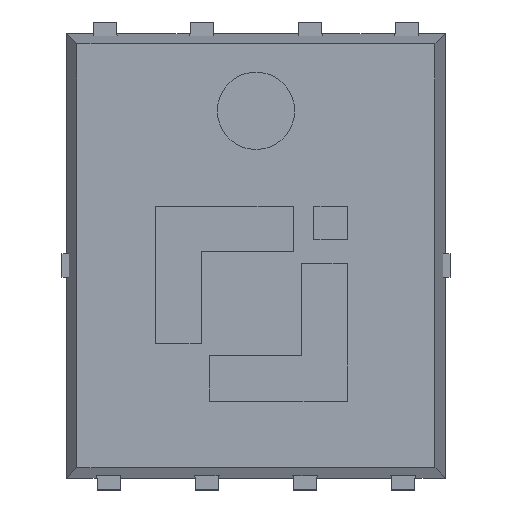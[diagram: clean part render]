
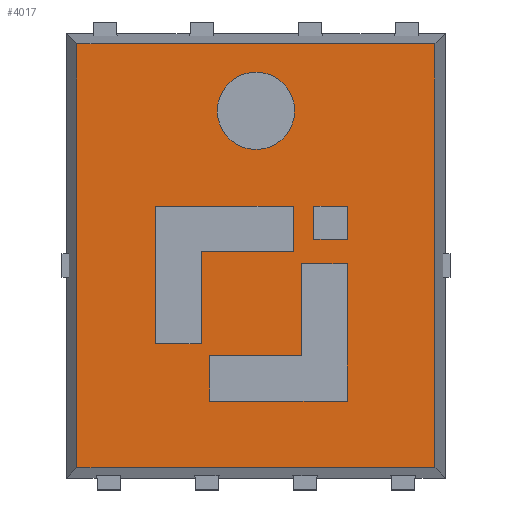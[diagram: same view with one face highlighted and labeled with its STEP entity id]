
A CAD part, top view. The second image highlights one B-rep face of the part: STEP entity #4017.
In plain terms, the highlighted planar face has unit normal (0, 0, 1).
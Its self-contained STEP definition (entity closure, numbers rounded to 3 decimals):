
#3833=CARTESIAN_POINT('',(0.,0.,0.95));
#3834=DIRECTION('',(0.,0.,1.));
#3835=DIRECTION('',(1.,0.,0.));
#3836=AXIS2_PLACEMENT_3D('',#3833,#3834,#3835);
#3837=PLANE('',#3836);
#3838=CARTESIAN_POINT('',(0.75,0.214,0.95));
#3839=VERTEX_POINT('',#3838);
#3840=CARTESIAN_POINT('',(1.18,0.214,0.95));
#3841=VERTEX_POINT('',#3840);
#3842=CARTESIAN_POINT('',(0.75,0.214,0.95));
#3843=DIRECTION('',(1.,0.,-0.));
#3844=VECTOR('',#3843,0.43);
#3845=LINE('',#3842,#3844);
#3846=EDGE_CURVE('',#3839,#3841,#3845,.T.);
#3847=ORIENTED_EDGE('',*,*,#3846,.F.);
#3848=CARTESIAN_POINT('',(0.75,0.644,0.95));
#3849=VERTEX_POINT('',#3848);
#3850=CARTESIAN_POINT('',(0.75,0.644,0.95));
#3851=DIRECTION('',(0.,-1.,0.));
#3852=VECTOR('',#3851,0.43);
#3853=LINE('',#3850,#3852);
#3854=EDGE_CURVE('',#3849,#3839,#3853,.T.);
#3855=ORIENTED_EDGE('',*,*,#3854,.F.);
#3856=CARTESIAN_POINT('',(1.18,0.644,0.95));
#3857=VERTEX_POINT('',#3856);
#3858=CARTESIAN_POINT('',(1.18,0.644,0.95));
#3859=DIRECTION('',(-1.,0.,0.));
#3860=VECTOR('',#3859,0.43);
#3861=LINE('',#3858,#3860);
#3862=EDGE_CURVE('',#3857,#3849,#3861,.T.);
#3863=ORIENTED_EDGE('',*,*,#3862,.F.);
#3864=CARTESIAN_POINT('',(1.18,0.214,0.95));
#3865=DIRECTION('',(0.,1.,0.));
#3866=VECTOR('',#3865,0.43);
#3867=LINE('',#3864,#3866);
#3868=EDGE_CURVE('',#3841,#3857,#3867,.T.);
#3869=ORIENTED_EDGE('',*,*,#3868,.F.);
#3870=EDGE_LOOP('',(#3847,#3855,#3863,#3869));
#3871=FACE_BOUND('',#3870,.T.);
#3872=CARTESIAN_POINT('',(0.5,1.875,0.95));
#3873=VERTEX_POINT('',#3872);
#3874=CARTESIAN_POINT('',(0.,1.875,0.95));
#3875=DIRECTION('',(0.,0.,1.));
#3876=DIRECTION('',(1.,0.,-0.));
#3877=AXIS2_PLACEMENT_3D('',#3874,#3875,#3876);
#3878=CIRCLE('',#3877,0.5);
#3879=EDGE_CURVE('',#3873,#3873,#3878,.T.);
#3880=ORIENTED_EDGE('',*,*,#3879,.F.);
#3881=EDGE_LOOP('',(#3880));
#3882=FACE_BOUND('',#3881,.T.);
#3883=CARTESIAN_POINT('',(2.315,-2.74,0.95));
#3884=VERTEX_POINT('',#3883);
#3885=CARTESIAN_POINT('',(2.315,2.74,0.95));
#3886=VERTEX_POINT('',#3885);
#3887=CARTESIAN_POINT('',(2.315,-2.74,0.95));
#3888=DIRECTION('',(0.,1.,0.));
#3889=VECTOR('',#3888,5.48);
#3890=LINE('',#3887,#3889);
#3891=EDGE_CURVE('',#3884,#3886,#3890,.T.);
#3892=ORIENTED_EDGE('',*,*,#3891,.T.);
#3893=CARTESIAN_POINT('',(-2.315,2.74,0.95));
#3894=VERTEX_POINT('',#3893);
#3895=CARTESIAN_POINT('',(2.315,2.74,0.95));
#3896=DIRECTION('',(-1.,-0.,0.));
#3897=VECTOR('',#3896,4.63);
#3898=LINE('',#3895,#3897);
#3899=EDGE_CURVE('',#3886,#3894,#3898,.T.);
#3900=ORIENTED_EDGE('',*,*,#3899,.T.);
#3901=CARTESIAN_POINT('',(-2.315,-2.74,0.95));
#3902=VERTEX_POINT('',#3901);
#3903=CARTESIAN_POINT('',(-2.315,2.74,0.95));
#3904=DIRECTION('',(0.,-1.,0.));
#3905=VECTOR('',#3904,5.48);
#3906=LINE('',#3903,#3905);
#3907=EDGE_CURVE('',#3894,#3902,#3906,.T.);
#3908=ORIENTED_EDGE('',*,*,#3907,.T.);
#3909=CARTESIAN_POINT('',(-2.315,-2.74,0.95));
#3910=DIRECTION('',(1.,0.,0.));
#3911=VECTOR('',#3910,4.63);
#3912=LINE('',#3909,#3911);
#3913=EDGE_CURVE('',#3902,#3884,#3912,.T.);
#3914=ORIENTED_EDGE('',*,*,#3913,.T.);
#3915=EDGE_LOOP('',(#3892,#3900,#3908,#3914));
#3916=FACE_BOUND('',#3915,.T.);
#3917=CARTESIAN_POINT('',(-1.299,0.644,0.95));
#3918=VERTEX_POINT('',#3917);
#3919=CARTESIAN_POINT('',(0.481,0.644,0.95));
#3920=VERTEX_POINT('',#3919);
#3921=CARTESIAN_POINT('',(-1.299,0.644,0.95));
#3922=DIRECTION('',(1.,0.,-0.));
#3923=VECTOR('',#3922,1.78);
#3924=LINE('',#3921,#3923);
#3925=EDGE_CURVE('',#3918,#3920,#3924,.T.);
#3926=ORIENTED_EDGE('',*,*,#3925,.T.);
#3927=CARTESIAN_POINT('',(0.481,0.054,0.95));
#3928=VERTEX_POINT('',#3927);
#3929=CARTESIAN_POINT('',(0.481,0.644,0.95));
#3930=DIRECTION('',(0.,-1.,0.));
#3931=VECTOR('',#3930,0.59);
#3932=LINE('',#3929,#3931);
#3933=EDGE_CURVE('',#3920,#3928,#3932,.T.);
#3934=ORIENTED_EDGE('',*,*,#3933,.T.);
#3935=CARTESIAN_POINT('',(-0.709,0.054,0.95));
#3936=VERTEX_POINT('',#3935);
#3937=CARTESIAN_POINT('',(0.481,0.054,0.95));
#3938=DIRECTION('',(-1.,0.,0.));
#3939=VECTOR('',#3938,1.19);
#3940=LINE('',#3937,#3939);
#3941=EDGE_CURVE('',#3928,#3936,#3940,.T.);
#3942=ORIENTED_EDGE('',*,*,#3941,.T.);
#3943=CARTESIAN_POINT('',(-0.709,-1.136,0.95));
#3944=VERTEX_POINT('',#3943);
#3945=CARTESIAN_POINT('',(-0.709,0.054,0.95));
#3946=DIRECTION('',(0.,-1.,0.));
#3947=VECTOR('',#3946,1.19);
#3948=LINE('',#3945,#3947);
#3949=EDGE_CURVE('',#3936,#3944,#3948,.T.);
#3950=ORIENTED_EDGE('',*,*,#3949,.T.);
#3951=CARTESIAN_POINT('',(-1.299,-1.136,0.95));
#3952=VERTEX_POINT('',#3951);
#3953=CARTESIAN_POINT('',(-0.709,-1.136,0.95));
#3954=DIRECTION('',(-1.,0.,0.));
#3955=VECTOR('',#3954,0.59);
#3956=LINE('',#3953,#3955);
#3957=EDGE_CURVE('',#3944,#3952,#3956,.T.);
#3958=ORIENTED_EDGE('',*,*,#3957,.T.);
#3959=CARTESIAN_POINT('',(-1.299,-1.136,0.95));
#3960=DIRECTION('',(0.,1.,0.));
#3961=VECTOR('',#3960,1.78);
#3962=LINE('',#3959,#3961);
#3963=EDGE_CURVE('',#3952,#3918,#3962,.T.);
#3964=ORIENTED_EDGE('',*,*,#3963,.T.);
#3965=EDGE_LOOP('',(#3926,#3934,#3942,#3950,#3958,#3964));
#3966=FACE_BOUND('',#3965,.T.);
#3967=CARTESIAN_POINT('',(0.59,-0.1,0.95));
#3968=VERTEX_POINT('',#3967);
#3969=CARTESIAN_POINT('',(1.18,-0.1,0.95));
#3970=VERTEX_POINT('',#3969);
#3971=CARTESIAN_POINT('',(0.59,-0.1,0.95));
#3972=DIRECTION('',(1.,0.,0.));
#3973=VECTOR('',#3972,0.59);
#3974=LINE('',#3971,#3973);
#3975=EDGE_CURVE('',#3968,#3970,#3974,.T.);
#3976=ORIENTED_EDGE('',*,*,#3975,.T.);
#3977=CARTESIAN_POINT('',(1.18,-1.88,0.95));
#3978=VERTEX_POINT('',#3977);
#3979=CARTESIAN_POINT('',(1.18,-0.1,0.95));
#3980=DIRECTION('',(0.,-1.,0.));
#3981=VECTOR('',#3980,1.78);
#3982=LINE('',#3979,#3981);
#3983=EDGE_CURVE('',#3970,#3978,#3982,.T.);
#3984=ORIENTED_EDGE('',*,*,#3983,.T.);
#3985=CARTESIAN_POINT('',(-0.6,-1.88,0.95));
#3986=VERTEX_POINT('',#3985);
#3987=CARTESIAN_POINT('',(1.18,-1.88,0.95));
#3988=DIRECTION('',(-1.,-0.,0.));
#3989=VECTOR('',#3988,1.78);
#3990=LINE('',#3987,#3989);
#3991=EDGE_CURVE('',#3978,#3986,#3990,.T.);
#3992=ORIENTED_EDGE('',*,*,#3991,.T.);
#3993=CARTESIAN_POINT('',(-0.6,-1.29,0.95));
#3994=VERTEX_POINT('',#3993);
#3995=CARTESIAN_POINT('',(-0.6,-1.88,0.95));
#3996=DIRECTION('',(0.,1.,0.));
#3997=VECTOR('',#3996,0.59);
#3998=LINE('',#3995,#3997);
#3999=EDGE_CURVE('',#3986,#3994,#3998,.T.);
#4000=ORIENTED_EDGE('',*,*,#3999,.T.);
#4001=CARTESIAN_POINT('',(0.59,-1.29,0.95));
#4002=VERTEX_POINT('',#4001);
#4003=CARTESIAN_POINT('',(-0.6,-1.29,0.95));
#4004=DIRECTION('',(1.,0.,0.));
#4005=VECTOR('',#4004,1.19);
#4006=LINE('',#4003,#4005);
#4007=EDGE_CURVE('',#3994,#4002,#4006,.T.);
#4008=ORIENTED_EDGE('',*,*,#4007,.T.);
#4009=CARTESIAN_POINT('',(0.59,-1.29,0.95));
#4010=DIRECTION('',(-0.,1.,0.));
#4011=VECTOR('',#4010,1.19);
#4012=LINE('',#4009,#4011);
#4013=EDGE_CURVE('',#4002,#3968,#4012,.T.);
#4014=ORIENTED_EDGE('',*,*,#4013,.T.);
#4015=EDGE_LOOP('',(#3976,#3984,#3992,#4000,#4008,#4014));
#4016=FACE_BOUND('',#4015,.T.);
#4017=ADVANCED_FACE('',(#3871,#3882,#3916,#3966,#4016),#3837,.T.);
